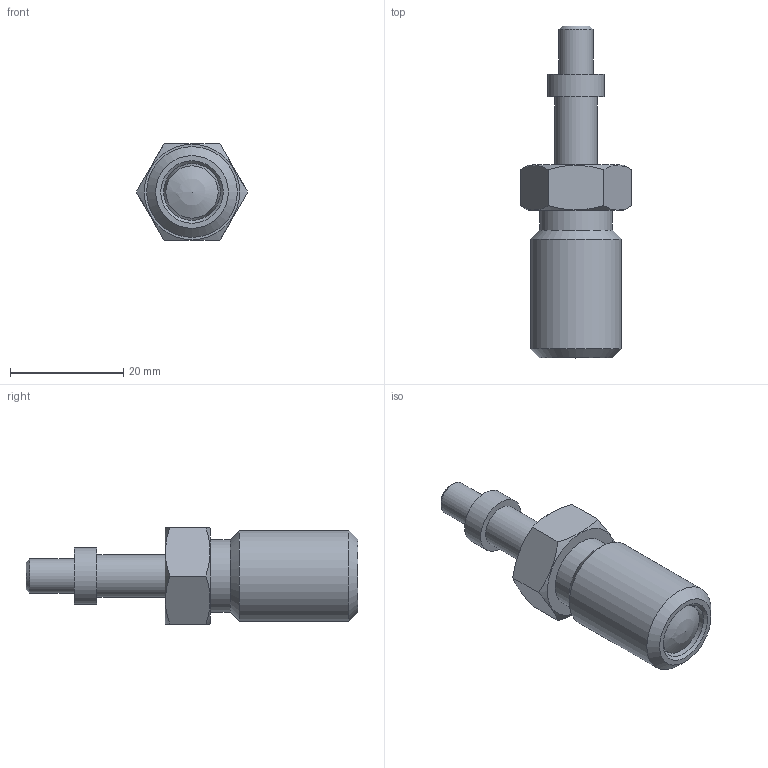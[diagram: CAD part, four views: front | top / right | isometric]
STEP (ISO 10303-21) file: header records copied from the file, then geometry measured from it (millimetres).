
FILE_DESCRIPTION( ( 'STEP AP203' ), '1' );
FILE_NAME( 'C:/Temp/Ganter_Step_05_03_2020/data/3_1/gn817/gn817_ni-rastbolzen/Stainless steel-Indexing plunger GN 817-10-12-G-NI (activated).stp', '2020-03-12T08:59:52', ( 'License CC BY-ND 4.0' ), ( 'CADENAS' ), ' ', 'PARTsolutions', ' ' );
FILE_SCHEMA( ( 'CONFIG_CONTROL_DESIGN' ) );
Length unit declared in the file: millimetre
Products named in the file (4): Stainless steel-Indexing plunger GN 817-10-12-G-NI (activated); _Stainless steel-Indexing plunger GN 817-10-12-G-NI (activated)-d2; _Stainless steel-Indexing plunger GN 817-10-12-B-NI-2; _Stainless Steel-Indexing plunger GN 817-10-12-G-NI-6
Assembly tree (3 placements, depth 2):
  Stainless steel-Indexing plunger GN 817-10-12-G-NI (activated)
    _Stainless steel-Indexing plunger GN 817-10-12-G-NI (activated)-d2
    _Stainless steel-Indexing plunger GN 817-10-12-B-NI-2
    _Stainless Steel-Indexing plunger GN 817-10-12-G-NI-6
Bounding box: 19.63 x 58.5 x 17 mm (x, y, z)
Volume: 7857.8 mm3; surface area: 4967.9 mm2
Topology: 2 solids, 2 shells, 33 faces, 64 edges, 40 vertices
Faces by surface type: plane 14, cone 8, cylinder 8, torus 2, sphere 1
Full cylindrical faces by diameter (mm): 6 x1, 7.5 x2, 10 x3, 12.8 x1, 16 x1
Entity records: 971 total; most frequent: CARTESIAN_POINT 243, DIRECTION 130, ORIENTED_EDGE 86, AXIS2_PLACEMENT_3D 62, EDGE_LOOP 58, FACE_OUTER_BOUND 43, EDGE_CURVE 43, VERTEX_POINT 38
